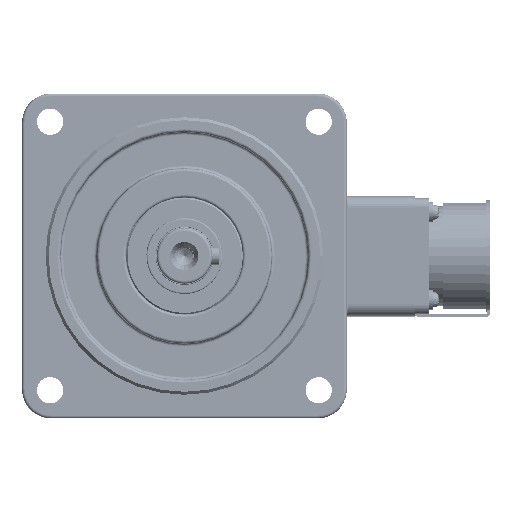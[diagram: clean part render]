
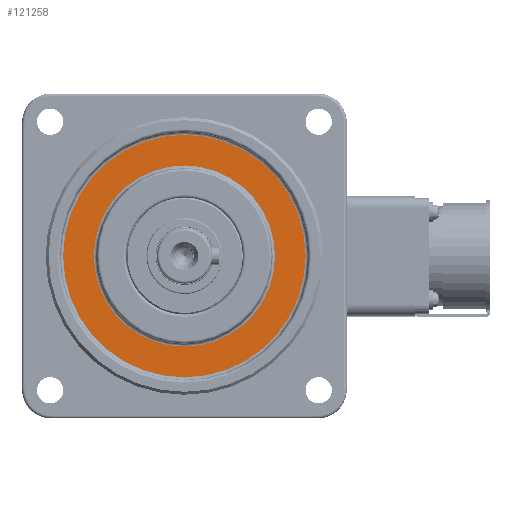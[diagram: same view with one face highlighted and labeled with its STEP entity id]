
A CAD part, left-side view. The second image highlights one B-rep face of the part: STEP entity #121258.
In plain terms, the highlighted planar face has unit normal (-1, 0, 0) as drawn and (1, 0, 0) by its records, which use the part's own axes.
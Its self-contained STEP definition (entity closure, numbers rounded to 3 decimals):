
#5842 = VERTEX_POINT ( 'NONE', #128091 ) ;
#9554 = ORIENTED_EDGE ( 'NONE', *, *, #86494, .T. ) ;
#11468 = EDGE_LOOP ( 'NONE', ( #132307, #48501 ) ) ;
#12133 = CARTESIAN_POINT ( 'NONE',  ( 23.5, 42.5, 0. ) ) ;
#15780 = CARTESIAN_POINT ( 'NONE',  ( 23.5, 0., 0. ) ) ;
#21098 = CARTESIAN_POINT ( 'NONE',  ( 23.5, 0., 0. ) ) ;
#23302 = FACE_BOUND ( 'NONE', #11468, .T. ) ;
#26714 = DIRECTION ( 'NONE',  ( 0., 0., 1. ) ) ;
#29554 = CIRCLE ( 'NONE', #112677, 31. ) ;
#32835 = DIRECTION ( 'NONE',  ( -1., 0., 0. ) ) ;
#33429 = CIRCLE ( 'NONE', #116499, 41.5 ) ;
#36753 = EDGE_CURVE ( 'NONE', #5842, #105502, #123401, .T. ) ;
#37361 = CIRCLE ( 'NONE', #120444, 41.5 ) ;
#37948 = CARTESIAN_POINT ( 'NONE',  ( 23.5, 0., 31. ) ) ;
#43742 = EDGE_CURVE ( 'NONE', #63608, #85300, #37361, .T. ) ;
#48501 = ORIENTED_EDGE ( 'NONE', *, *, #36753, .T. ) ;
#56693 = EDGE_LOOP ( 'NONE', ( #9554, #121680 ) ) ;
#57508 = DIRECTION ( 'NONE',  ( -1., 0., 0. ) ) ;
#59334 = AXIS2_PLACEMENT_3D ( 'NONE', #134685, #32835, #78200 ) ;
#61141 = DIRECTION ( 'NONE',  ( -1., 0., 0. ) ) ;
#63608 = VERTEX_POINT ( 'NONE', #120407 ) ;
#66448 = DIRECTION ( 'NONE',  ( 1., 0., 0. ) ) ;
#68669 = FACE_OUTER_BOUND ( 'NONE', #56693, .T. ) ;
#76639 = EDGE_CURVE ( 'NONE', #105502, #5842, #29554, .T. ) ;
#78200 = DIRECTION ( 'NONE',  ( 0., 0., 1. ) ) ;
#83232 = CARTESIAN_POINT ( 'NONE',  ( 23.5, 0., 0. ) ) ;
#85300 = VERTEX_POINT ( 'NONE', #113764 ) ;
#86494 = EDGE_CURVE ( 'NONE', #85300, #63608, #33429, .T. ) ;
#102829 = DIRECTION ( 'NONE',  ( 0., 0., 1. ) ) ;
#105502 = VERTEX_POINT ( 'NONE', #37948 ) ;
#106445 = DIRECTION ( 'NONE',  ( 0., 0., 1. ) ) ;
#111768 = DIRECTION ( 'NONE',  ( 0., 0., 1. ) ) ;
#112677 = AXIS2_PLACEMENT_3D ( 'NONE', #15780, #61141, #106445 ) ;
#113764 = CARTESIAN_POINT ( 'NONE',  ( 23.5, 0., 41.5 ) ) ;
#113964 = PLANE ( 'NONE',  #126497 ) ;
#116499 = AXIS2_PLACEMENT_3D ( 'NONE', #21098, #66448, #111768 ) ;
#120407 = CARTESIAN_POINT ( 'NONE',  ( 23.5, 0., -41.5 ) ) ;
#120444 = AXIS2_PLACEMENT_3D ( 'NONE', #83232, #128551, #26714 ) ;
#121258 = ADVANCED_FACE ( 'NONE', ( #23302, #68669 ), #113964, .F. ) ;
#121680 = ORIENTED_EDGE ( 'NONE', *, *, #43742, .T. ) ;
#123401 = CIRCLE ( 'NONE', #59334, 31. ) ;
#126497 = AXIS2_PLACEMENT_3D ( 'NONE', #12133, #57508, #102829 ) ;
#128091 = CARTESIAN_POINT ( 'NONE',  ( 23.5, 0., -31. ) ) ;
#128551 = DIRECTION ( 'NONE',  ( 1., 0., 0. ) ) ;
#132307 = ORIENTED_EDGE ( 'NONE', *, *, #76639, .T. ) ;
#134685 = CARTESIAN_POINT ( 'NONE',  ( 23.5, 0., 0. ) ) ;
